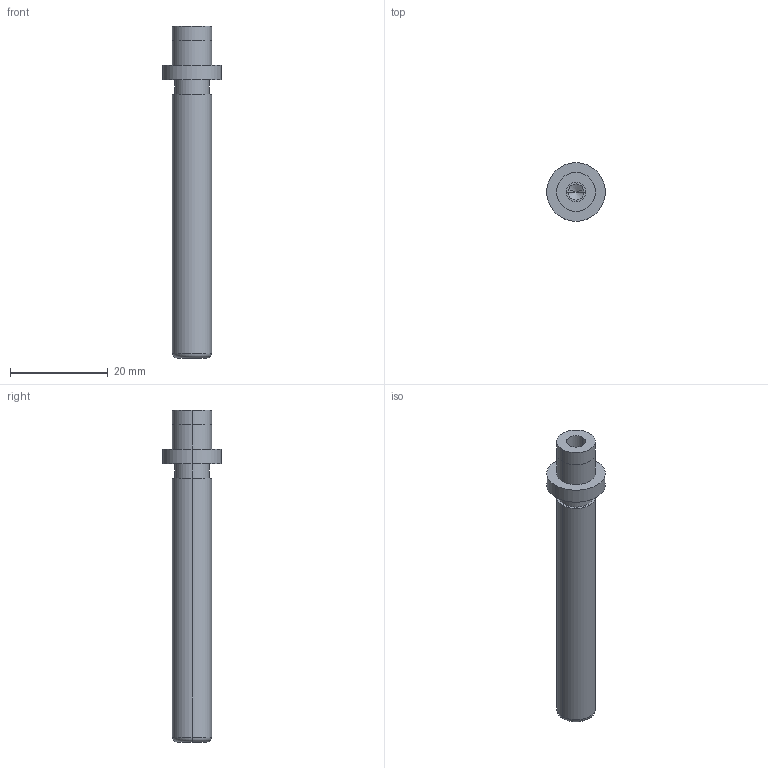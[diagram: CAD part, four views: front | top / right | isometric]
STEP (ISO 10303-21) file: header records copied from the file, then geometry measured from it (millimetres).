
FILE_DESCRIPTION(/* description */ (''),/* implementation_level */ '2;1');
FILE_NAME(/* name */ '3d_sgpw8-60_05250_r00.stp',/* time_stamp */ '2011-01-10T14:11:02+09:00',/* author */ ('MISUMI'),/* organization */ (''),/* preprocessor_version */ 'ST-DEVELOPER v11',/* originating_system */ 'UGS - NX 5.0',/* authorisation */ '');
FILE_SCHEMA (('CONFIG_CONTROL_DESIGN'));
Length unit declared in the file: millimetre
Products named in the file (1): 3d_sgpw8-60_05250_r00
Bounding box: 12 x 12 x 68 mm (x, y, z)
Volume: 3275.1 mm3; surface area: 2271.3 mm2
Topology: 1 solids, 1 shells, 31 faces, 64 edges, 38 vertices
Faces by surface type: cylinder 18, plane 7, cone 4, torus 2
Entity records: 890 total; most frequent: DIRECTION 162, CARTESIAN_POINT 130, ORIENTED_EDGE 120, AXIS2_PLACEMENT_3D 70, EDGE_CURVE 60, EDGE_LOOP 38, CIRCLE 38, VERTEX_POINT 38
